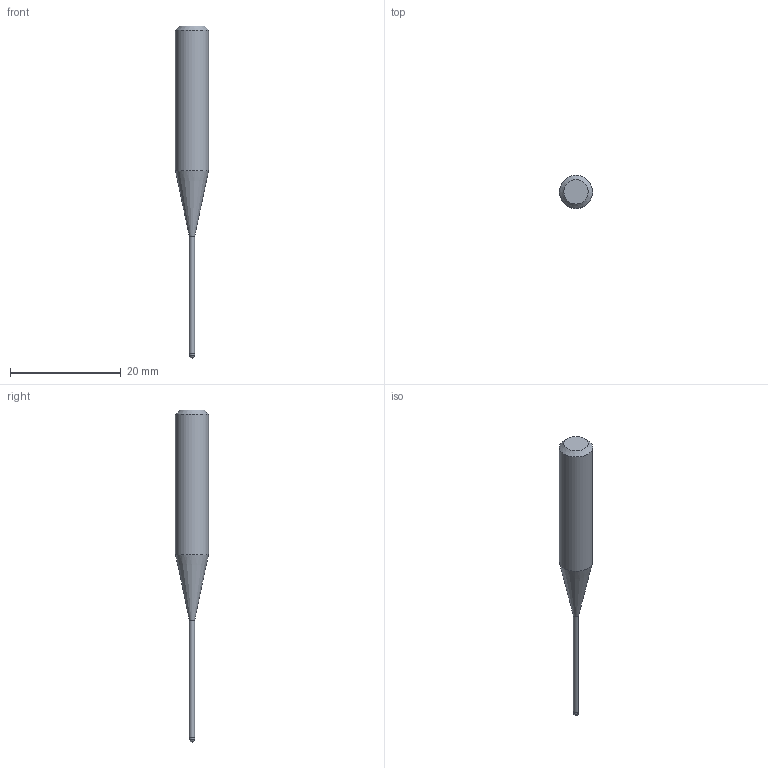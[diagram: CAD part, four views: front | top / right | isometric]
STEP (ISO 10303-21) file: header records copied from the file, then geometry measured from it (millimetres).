
FILE_DESCRIPTION((''),'2;1');
FILE_NAME('C:\Users\nsx150\AppData\Local\Temp\Mastercam 2021\3SYKECWX22\TEMP.step','2021-04-22T10:02:39',(''),(''),'STEP Write','Mastercam 2021 ... CNC Software, Inc.','');
FILE_SCHEMA(('AUTOMOTIVE_DESIGN'));
Length unit declared in the file: millimetre
Products named in the file (1): None
Bounding box: 6 x 6 x 60 mm (x, y, z)
Volume: 881.1 mm3; surface area: 710.8 mm2
Topology: 2 solids, 2 shells, 9 faces, 14 edges, 8 vertices
Faces by surface type: plane 3, cylinder 3, cone 2, sphere 1
Full cylindrical faces by diameter (mm): 0.95 x1, 1 x1, 6 x1
Entity records: 211 total; most frequent: DIRECTION 36, CARTESIAN_POINT 25, AXIS2_PLACEMENT_3D 18, ORIENTED_EDGE 14, EDGE_LOOP 14, STYLED_ITEM 12, ADVANCED_FACE 9, FACE_BOUND 8
